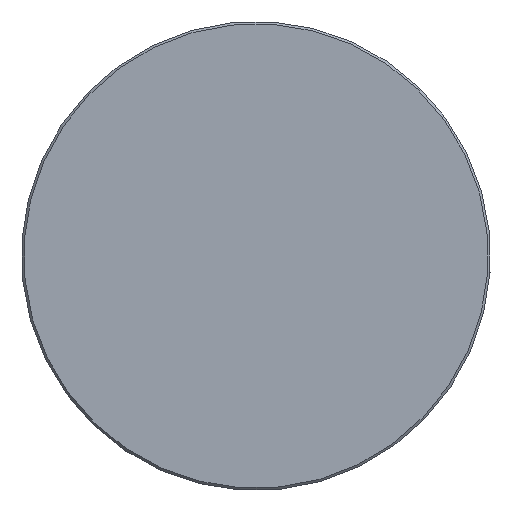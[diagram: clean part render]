
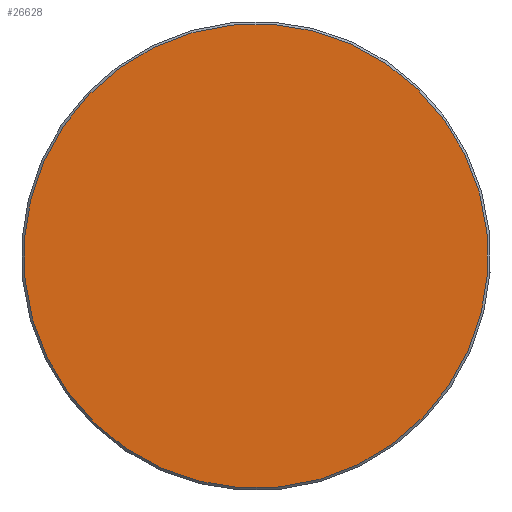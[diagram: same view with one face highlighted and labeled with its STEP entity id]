
A CAD part, left-side view. The second image highlights one B-rep face of the part: STEP entity #26628.
In plain terms, the highlighted planar face has unit normal (-1, 0, 0).
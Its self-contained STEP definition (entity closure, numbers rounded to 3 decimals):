
#26588=CARTESIAN_POINT('',(-111.319,47.582,-13.644));
#26589=VERTEX_POINT('',#26588);
#26590=CARTESIAN_POINT('',(-111.319,0.,0.));
#26591=DIRECTION('',(1.0,0.,0.));
#26592=DIRECTION('',(0.,-0.961,0.276));
#26593=AXIS2_PLACEMENT_3D('',#26590,#26591,#26592);
#26594=CIRCLE('',#26593,49.5);
#26595=EDGE_CURVE('',#26589,#26589,#26594,.T.);
#26620=CARTESIAN_POINT('',(-111.319,46.717,-13.396));
#26621=DIRECTION('',(-1.0,0.0,0.0));
#26622=DIRECTION('',(0.0,0.961,-0.276));
#26623=AXIS2_PLACEMENT_3D('',#26620,#26621,#26622);
#26624=PLANE('',#26623);
#26625=ORIENTED_EDGE('',*,*,#26595,.F.);
#26626=EDGE_LOOP('',(#26625));
#26627=FACE_OUTER_BOUND('',#26626,.T.);
#26628=ADVANCED_FACE('',(#26627),#26624,.T.);
